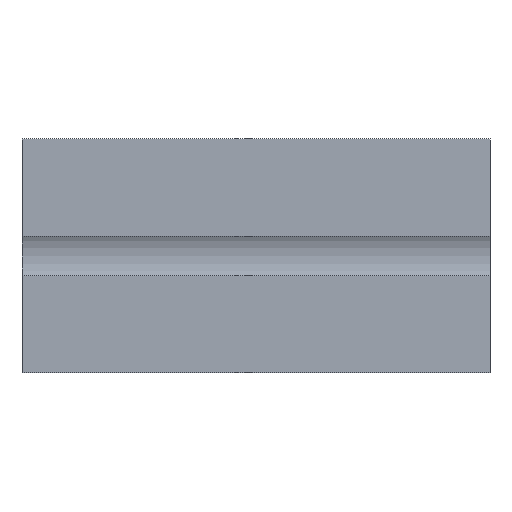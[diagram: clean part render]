
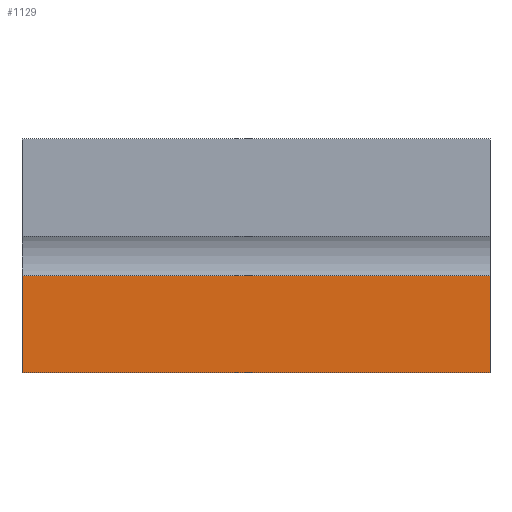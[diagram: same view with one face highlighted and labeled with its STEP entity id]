
A CAD part, left-side view. The second image highlights one B-rep face of the part: STEP entity #1129.
In plain terms, the highlighted planar face has unit normal (-1, 0, 0).
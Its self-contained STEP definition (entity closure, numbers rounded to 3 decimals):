
#46=LINE('',#1630,#178);
#90=LINE('',#1748,#222);
#91=LINE('',#1750,#223);
#92=LINE('',#1752,#224);
#178=VECTOR('',#1307,1000.);
#222=VECTOR('',#1395,1000.);
#223=VECTOR('',#1396,1000.);
#224=VECTOR('',#1397,1000.);
#380=ORIENTED_EDGE('',*,*,#702,.T.);
#381=ORIENTED_EDGE('',*,*,#643,.T.);
#382=ORIENTED_EDGE('',*,*,#703,.F.);
#383=ORIENTED_EDGE('',*,*,#704,.F.);
#643=EDGE_CURVE('',#808,#807,#46,.T.);
#702=EDGE_CURVE('',#860,#808,#90,.T.);
#703=EDGE_CURVE('',#861,#807,#91,.T.);
#704=EDGE_CURVE('',#860,#861,#92,.T.);
#807=VERTEX_POINT('',#1629);
#808=VERTEX_POINT('',#1631);
#860=VERTEX_POINT('',#1749);
#861=VERTEX_POINT('',#1751);
#948=EDGE_LOOP('',(#380,#381,#382,#383));
#1020=FACE_BOUND('',#948,.T.);
#1083=PLANE('',#1220);
#1129=ADVANCED_FACE('',(#1020),#1083,.F.);
#1220=AXIS2_PLACEMENT_3D('',#1747,#1393,#1394);
#1307=DIRECTION('',(0.,0.,-1.));
#1393=DIRECTION('',(1.,0.,0.));
#1394=DIRECTION('',(0.,0.,-1.));
#1395=DIRECTION('',(0.,1.,0.));
#1396=DIRECTION('',(0.,1.,0.));
#1397=DIRECTION('',(0.,0.,-1.));
#1629=CARTESIAN_POINT('',(-25.,50.,-25.));
#1630=CARTESIAN_POINT('',(-25.,50.,25.));
#1631=CARTESIAN_POINT('',(-25.,50.,-4.2));
#1747=CARTESIAN_POINT('',(-25.,-50.,25.));
#1748=CARTESIAN_POINT('',(-25.,-50.,-4.2));
#1749=CARTESIAN_POINT('',(-25.,-50.,-4.2));
#1750=CARTESIAN_POINT('',(-25.,-50.,-25.));
#1751=CARTESIAN_POINT('',(-25.,-50.,-25.));
#1752=CARTESIAN_POINT('',(-25.,-50.,25.));
